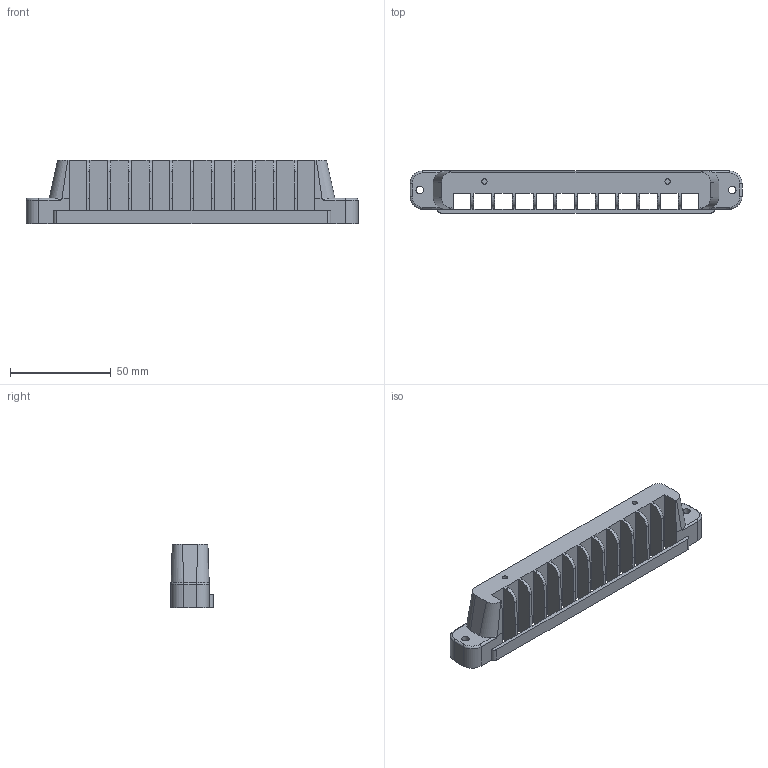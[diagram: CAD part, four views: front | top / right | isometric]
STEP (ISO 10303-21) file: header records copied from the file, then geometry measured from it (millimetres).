
FILE_DESCRIPTION(('FreeCAD Model'),'2;1');
FILE_NAME('Open CASCADE Shape Model','2024-01-06T22:41:22',(''),(''), 'Open CASCADE STEP processor 7.6','FreeCAD','Unknown');
FILE_SCHEMA(('AUTOMOTIVE_DESIGN { 1 0 10303 214 1 1 1 1 }'));
Length unit declared in the file: millimetre
Products named in the file (1): Body
Bounding box: 165 x 20.9 x 31.75 mm (x, y, z)
Volume: 61943.7 mm3; surface area: 22749.5 mm2
Topology: 1 solids, 1 shells, 124 faces, 374 edges, 230 vertices
Faces by surface type: plane 73, bspline 31, cylinder 16, torus 4
Full cylindrical faces by diameter (mm): 2.65 x2, 3.75 x2
Entity records: 13600 total; most frequent: CARTESIAN_POINT 6605, DIRECTION 1131, LINE 835, VECTOR 835, ORIENTED_EDGE 748, PCURVE 748, DEFINITIONAL_REPRESENTATION 748, EDGE_CURVE 374
